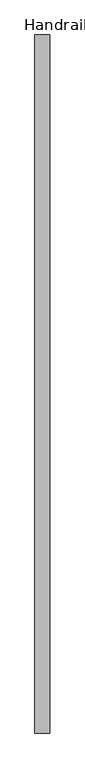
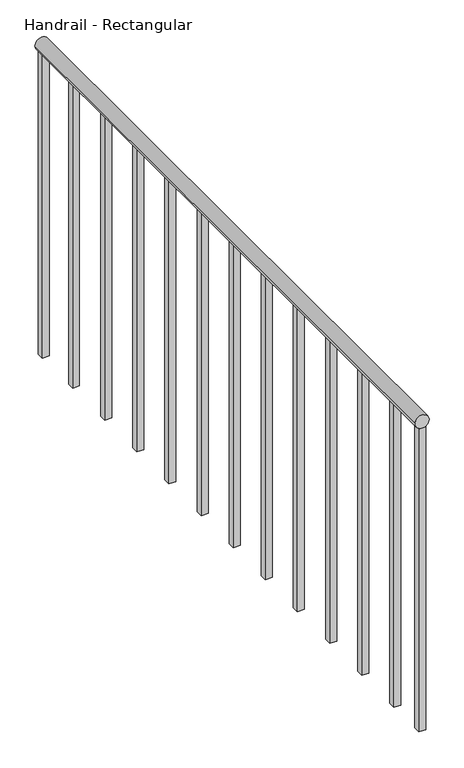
"""IFC4 building model written with IfcOpenShell, lengths in millimetres: railing geometry, Handrail - Rectangular."""

from ifc_helpers import new_model, si_unit, point, frame, frame_2d, origin, place, context, project, spatial, polyline, circle_curve, trimmed, segment, composite_curve, outline, extrude, source, transform, mapped, element, save


def handrail_rectangular_3a6b5298(model_context):
    return source(origin(), model_context, "Body", "SweptSolid", [
        extrude(outline(composite_curve([segment(trimmed(circle_curve(frame_2d((10039.35, 2297.1410437)), 19.05), [point((10039.35, 2316.1910437))], [point((10039.35, 2278.0910437))], False, "CARTESIAN"), True, "CONTINUOUS"), segment(trimmed(circle_curve(frame_2d((10039.35, 2297.1410437)), 19.05), [point((10039.35, 2278.0910437))], [point((10039.35, 2316.1910437))], False, "CARTESIAN"), True, "CONTINUOUS")], self_intersect=False)), frame((0.0, 8414.2316867, 0.0), z_axis=(0.0, 1.0, 0.0), x_axis=(0.0, 0.0, 1.0)), (0.0, 0.0, 1.0), 1803.4),
        extrude(outline(polyline([(2287.6160437, 8550.7566867), (2306.6660437, 8550.7566867), (2306.6660437, 8531.7066867), (2287.6160437, 8531.7066867), (2287.6160437, 8550.7566867)])), frame((0.0, 0.0, 9144.0), z_axis=(0.0, 0.0, 1.0), x_axis=(1.0, 0.0, 0.0)), (0.0, 0.0, 1.0), 876.3),
        extrude(outline(polyline([(2287.6160437, 8703.1566867), (2306.6660437, 8703.1566867), (2306.6660437, 8684.1066867), (2287.6160437, 8684.1066867), (2287.6160437, 8703.1566867)])), frame((0.0, 0.0, 9144.0), z_axis=(0.0, 0.0, 1.0), x_axis=(1.0, 0.0, 0.0)), (0.0, 0.0, 1.0), 876.3),
        extrude(outline(polyline([(2287.6160437, 8855.5566867), (2306.6660437, 8855.5566867), (2306.6660437, 8836.5066867), (2287.6160437, 8836.5066867), (2287.6160437, 8855.5566867)])), frame((0.0, 0.0, 9144.0), z_axis=(0.0, 0.0, 1.0), x_axis=(1.0, 0.0, 0.0)), (0.0, 0.0, 1.0), 876.3),
        extrude(outline(polyline([(2287.6160437, 9007.9566867), (2306.6660437, 9007.9566867), (2306.6660437, 8988.9066867), (2287.6160437, 8988.9066867), (2287.6160437, 9007.9566867)])), frame((0.0, 0.0, 9144.0), z_axis=(0.0, 0.0, 1.0), x_axis=(1.0, 0.0, 0.0)), (0.0, 0.0, 1.0), 876.3),
        extrude(outline(polyline([(2287.6160437, 9160.3566867), (2306.6660437, 9160.3566867), (2306.6660437, 9141.3066867), (2287.6160437, 9141.3066867), (2287.6160437, 9160.3566867)])), frame((0.0, 0.0, 9144.0), z_axis=(0.0, 0.0, 1.0), x_axis=(1.0, 0.0, 0.0)), (0.0, 0.0, 1.0), 876.3),
        extrude(outline(polyline([(2287.6160437, 9312.7566867), (2306.6660437, 9312.7566867), (2306.6660437, 9293.7066867), (2287.6160437, 9293.7066867), (2287.6160437, 9312.7566867)])), frame((0.0, 0.0, 9144.0), z_axis=(0.0, 0.0, 1.0), x_axis=(1.0, 0.0, 0.0)), (0.0, 0.0, 1.0), 876.3),
        extrude(outline(polyline([(2287.6160437, 9465.1566867), (2306.6660437, 9465.1566867), (2306.6660437, 9446.1066867), (2287.6160437, 9446.1066867), (2287.6160437, 9465.1566867)])), frame((0.0, 0.0, 9144.0), z_axis=(0.0, 0.0, 1.0), x_axis=(1.0, 0.0, 0.0)), (0.0, 0.0, 1.0), 876.3),
        extrude(outline(polyline([(2287.6160437, 9617.5566867), (2306.6660437, 9617.5566867), (2306.6660437, 9598.5066867), (2287.6160437, 9598.5066867), (2287.6160437, 9617.5566867)])), frame((0.0, 0.0, 9144.0), z_axis=(0.0, 0.0, 1.0), x_axis=(1.0, 0.0, 0.0)), (0.0, 0.0, 1.0), 876.3),
        extrude(outline(polyline([(2287.6160437, 9769.9566867), (2306.6660437, 9769.9566867), (2306.6660437, 9750.9066867), (2287.6160437, 9750.9066867), (2287.6160437, 9769.9566867)])), frame((0.0, 0.0, 9144.0), z_axis=(0.0, 0.0, 1.0), x_axis=(1.0, 0.0, 0.0)), (0.0, 0.0, 1.0), 876.3),
        extrude(outline(polyline([(2287.6160437, 9922.3566867), (2306.6660437, 9922.3566867), (2306.6660437, 9903.3066867), (2287.6160437, 9903.3066867), (2287.6160437, 9922.3566867)])), frame((0.0, 0.0, 9144.0), z_axis=(0.0, 0.0, 1.0), x_axis=(1.0, 0.0, 0.0)), (0.0, 0.0, 1.0), 876.3),
        extrude(outline(polyline([(2287.6160437, 10074.7566867), (2306.6660437, 10074.7566867), (2306.6660437, 10055.7066867), (2287.6160437, 10055.7066867), (2287.6160437, 10074.7566867)])), frame((0.0, 0.0, 9144.0), z_axis=(0.0, 0.0, 1.0), x_axis=(1.0, 0.0, 0.0)), (0.0, 0.0, 1.0), 876.3),
        extrude(outline(polyline([(2287.6160437, 8433.2816867), (2306.6660437, 8433.2816867), (2306.6660437, 8414.2316867), (2287.6160437, 8414.2316867), (2287.6160437, 8433.2816867)])), frame((0.0, 0.0, 9144.0), z_axis=(0.0, 0.0, 1.0), x_axis=(1.0, 0.0, 0.0)), (0.0, 0.0, 1.0), 876.3),
        extrude(outline(polyline([(2287.6160437, 10217.6316867), (2306.6660437, 10217.6316867), (2306.6660437, 10198.5816867), (2287.6160437, 10198.5816867), (2287.6160437, 10217.6316867)])), frame((0.0, 0.0, 9144.0), z_axis=(0.0, 0.0, 1.0), x_axis=(1.0, 0.0, 0.0)), (0.0, 0.0, 1.0), 876.3),
    ])


if __name__ == "__main__":
    model = new_model("IFC4")
    model_context = context("Model", 3, world=origin())
    ifc_project = project(units=[si_unit("LENGTHUNIT", "METRE", prefix="MILLI")], contexts=[model_context])
    site = spatial("IfcSite", under=ifc_project)
    building = spatial("IfcBuilding", under=site)
    placement = place(None, origin())
    handrail_rectangular_shape = handrail_rectangular_3a6b5298(model_context)
    element("IfcRailing", 1, ObjectType="Handrail - Rectangular", at=placement, inside=building, context=model_context, shape_type="MappedRepresentation", body=[
        mapped(handrail_rectangular_shape, transform((0.0, 0.0, 0.0), x_axis=(1.0, 0.0, 0.0), y_axis=(0.0, 1.0, 0.0), z_axis=(0.0, 0.0, 1.0))),
    ])
    save(model, "model.ifc")
